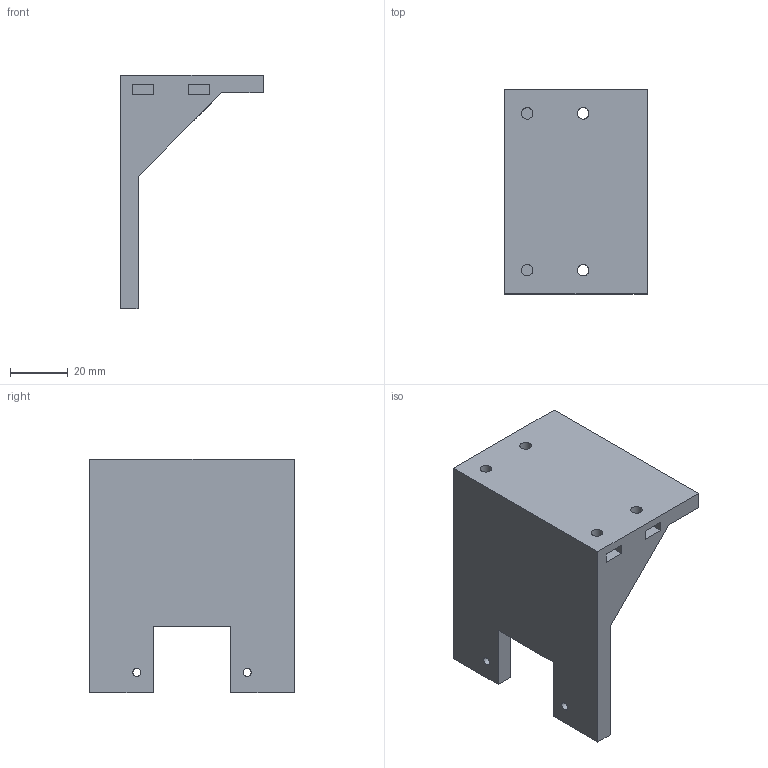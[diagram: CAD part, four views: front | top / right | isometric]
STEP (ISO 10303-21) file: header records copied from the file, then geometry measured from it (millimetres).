
FILE_DESCRIPTION(('FreeCAD Model'),'2;1');
FILE_NAME('/home/mike/Documents/CAD/CNC/FreeCAD/STEP/AxesHolderY.step', '2017-05-23T19:24:35',('Author'),(''), 'Open CASCADE STEP processor 6.7','FreeCAD','Unknown');
FILE_SCHEMA(('AUTOMOTIVE_DESIGN_CC2 { 1 2 10303 214 -1 1 5 4 }'));
Length unit declared in the file: millimetre
Products named in the file (1): AxesHolder
Bounding box: 49.5 x 71 x 81 mm (x, y, z)
Volume: 76922.6 mm3; surface area: 20490.2 mm2
Topology: 1 solids, 1 shells, 49 faces, 117 edges, 78 vertices
Faces by surface type: plane 37, cylinder 12
Full cylindrical faces by diameter (mm): 2.8 x2, 4 x8, 6 x2
Entity records: 3055 total; most frequent: CARTESIAN_POINT 585, DIRECTION 461, LINE 301, VECTOR 301, ORIENTED_EDGE 234, PCURVE 234, DEFINITIONAL_REPRESENTATION 234, EDGE_CURVE 117
